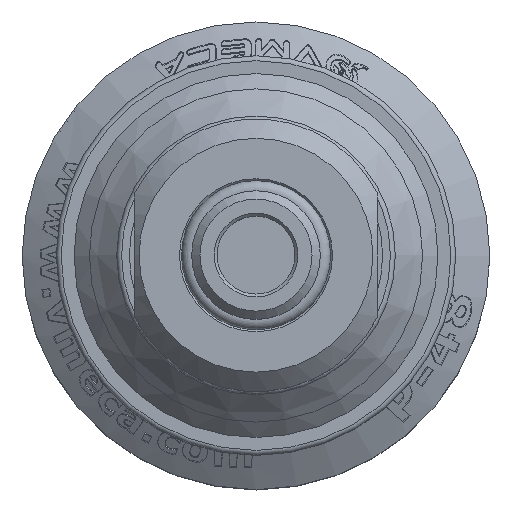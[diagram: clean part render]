
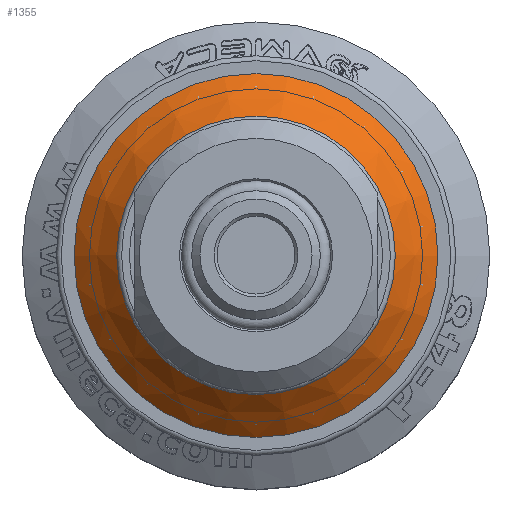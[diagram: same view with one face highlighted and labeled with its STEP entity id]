
A CAD part, top view. The second image highlights one B-rep face of the part: STEP entity #1355.
In plain terms, the highlighted conical face has half-angle 45.485 degrees and reference radius 18.678 mm.
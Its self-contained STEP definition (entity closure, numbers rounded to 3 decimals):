
#1355 = ADVANCED_FACE( '', ( #3333, #3334 ), #3335, .T. );
#3333 = FACE_BOUND( '', #9368, .T. );
#3334 = FACE_OUTER_BOUND( '', #9369, .T. );
#3335 = CONICAL_SURFACE( '', #9370, 18.679, 0.794 );
#9368 = EDGE_LOOP( '', ( #15203 ) );
#9369 = EDGE_LOOP( '', ( #15204 ) );
#9370 = AXIS2_PLACEMENT_3D( '', #15205, #15206, #15207 );
#15203 = ORIENTED_EDGE( '', *, *, #17470, .T. );
#15204 = ORIENTED_EDGE( '', *, *, #17469, .F. );
#15205 = CARTESIAN_POINT( '', ( 0., 0., 5.928 ) );
#15206 = DIRECTION( '', ( 0., 0., -1. ) );
#15207 = DIRECTION( '', ( -1., 0., 0. ) );
#17469 = EDGE_CURVE( '', #20959, #20959, #20960, .T. );
#17470 = EDGE_CURVE( '', #20961, #20961, #20962, .T. );
#20959 = VERTEX_POINT( '', #31239 );
#20960 = CIRCLE( '', #31240, 18.679 );
#20961 = VERTEX_POINT( '', #31241 );
#20962 = CIRCLE( '', #31242, 14. );
#31239 = CARTESIAN_POINT( '', ( -18.679, 0., 5.928 ) );
#31240 = AXIS2_PLACEMENT_3D( '', #32785, #32786, #32787 );
#31241 = CARTESIAN_POINT( '', ( -14., 0., 10.528 ) );
#31242 = AXIS2_PLACEMENT_3D( '', #32788, #32789, #32790 );
#32785 = CARTESIAN_POINT( '', ( 0., 0., 5.928 ) );
#32786 = DIRECTION( '', ( 0., 0., -1. ) );
#32787 = DIRECTION( '', ( -1., 0., 0. ) );
#32788 = CARTESIAN_POINT( '', ( 0., 0., 10.528 ) );
#32789 = DIRECTION( '', ( 0., 0., -1. ) );
#32790 = DIRECTION( '', ( -1., 0., 0. ) );
